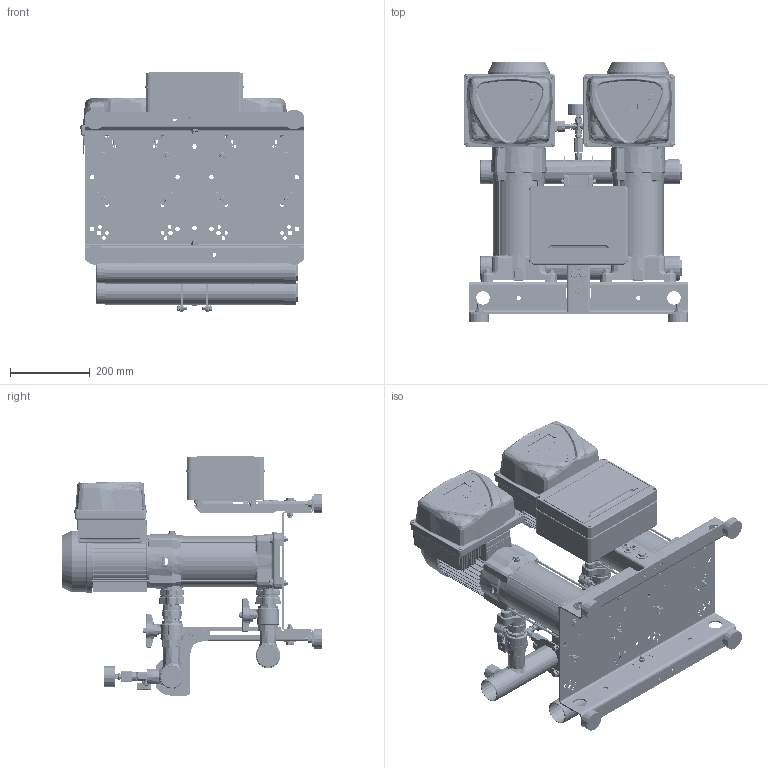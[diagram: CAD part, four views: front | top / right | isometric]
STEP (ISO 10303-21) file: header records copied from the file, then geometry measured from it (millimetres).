
FILE_DESCRIPTION((''),'2;1');
FILE_NAME('2GPE_CVM_B23_ESPT_REV4_ASM','2024-12-03T13:03:29',('Utente'),('"Ebara Pumps Europe S.p.A"'),'CREO PARAMETRIC BY PTC INC, 2022124','CREO PARAMETRIC BY PTC INC, 2022124','');
FILE_SCHEMA(('AUTOMOTIVE_DESIGN { 1 0 10303 214 1 1 1 1 }'));
Products named in the file (45): 62508_275562936; CALOTTA_F_A304_DN50_369800820; VAL_INT_MF_OTN_CIM301-14_DN32; VAL_INT_M-F_OTN_CIM301_DN32_ASM; EP_CVM_B-23_R; EP_CVM_B-23_R_ASM; ADATTATORE_E-SPD_MEC80-90-100; E-SPD_ADATTATORE_MEC80-90-100_ASM; BACK_E-SPD_PLUS_2200-4000; COVER_E-SPD_PLUS_2200-4000; COM_E-SPDT_MEC80-90-100_VERT_ASM; VAL-NR-MF-OTN-CIM32-DN32; VALV_NR_MF_CIM32_DN32_ASM; RONDEL-P_FE_ZN_UNI6592_M10; DADO_AUTOAGG_M10_ESAG; VITI_TE_ISO4017_M10_L40; 62513_275562944; VAL_INT_MF_OTN_CIM012_DN8; NIPPLO_OTG_8_380000861; CROCE_OTG_DN8_380000881; TRASD_16BAR_460500024; MAN_POS_D50_10BAR_361600003; BASE_2GP_I300-B300_DNRV; MONTANTE_H300_271472898; PIEDINO_CIL_369650010; DADI_NORM_ISO4032_FE_ZN_M10; RONDEL-P_ZN_UNI6593_M10X30X2-5; VITI_TE_ISO4017_M10_L45; TRAVERSO_MONT_L200_271472882; RONDEL-P_FE_ZN_UNI6593_M6X18X2; RONDEL-P_FE_ZN_UNI6592_M6; VITI_TE_ISO4017_M6_L20; DADI_NORM_ISO4032_FE_ZN_M6; DNRV_2P_I300-B300_H300-Q250X198_ASM; QUADRO_PROT_2P_T_ELENTEK; PG_PVC_D10-5_380000891; TAPPO-SALVAFIL_D31; 271473006; 271472998; 72578_271473004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
Assembly tree (134 placements, depth 3):
  2GPE_CVM_B23_ESPT_REV4_ASM
    62508_275562936
    CALOTTA_F_A304_DN50_369800820  x2
    VAL_INT_M-F_OTN_CIM301_DN32_ASM  x4
      VAL_INT_MF_OTN_CIM301-14_DN32
    EP_CVM_B-23_R_ASM  x2
      EP_CVM_B-23_R
    E-SPD_ADATTATORE_MEC80-90-100_ASM  x2
      ADATTATORE_E-SPD_MEC80-90-100
    COM_E-SPDT_MEC80-90-100_VERT_ASM  x2
      BACK_E-SPD_PLUS_2200-4000
      COVER_E-SPD_PLUS_2200-4000
    VALV_NR_MF_CIM32_DN32_ASM  x2
      VAL-NR-MF-OTN-CIM32-DN32
    RONDEL-P_FE_ZN_UNI6592_M10  x8
    DADO_AUTOAGG_M10_ESAG  x9
    VITI_TE_ISO4017_M10_L40  x8
    62513_275562944
    VAL_INT_MF_OTN_CIM012_DN8
    NIPPLO_OTG_8_380000861
    CROCE_OTG_DN8_380000881
    TRASD_16BAR_460500024  x2
    MAN_POS_D50_10BAR_361600003
    DNRV_2P_I300-B300_H300-Q250X198_ASM
      BASE_2GP_I300-B300_DNRV
      MONTANTE_H300_271472898
      PIEDINO_CIL_369650010  x4
      RONDEL-P_FE_ZN_UNI6592_M10  x4
      DADI_NORM_ISO4032_FE_ZN_M10  x4
      RONDEL-P_ZN_UNI6593_M10X30X2-5
      VITI_TE_ISO4017_M10_L45
      TRAVERSO_MONT_L200_271472882  x2
      RONDEL-P_FE_ZN_UNI6593_M6X18X2  x8
      RONDEL-P_FE_ZN_UNI6592_M6  x4
      VITI_TE_ISO4017_M6_L20  x4
      DADI_NORM_ISO4032_FE_ZN_M6  x4
      DADO_AUTOAGG_M10_ESAG
    QUADRO_PROT_2P_T_ELENTEK
    PG_PVC_D10-5_380000891  x3
    TAPPO-SALVAFIL_D31  x2
    271473006
    271472998  x2
    72578_271473004  x2
    RONDEL-P_ZN_UNI6593_M10X30X2-5
    VITI_TE_ISO4017_M10_L45
    RONDEL-P_FE_ZN_UNI6592_M8  x12
    VITI_TE_ISO4017_M8_L18  x8
    DADI_NORM_ISO4032_FE_ZN_M8  x4
    DADO_AUTOAGG_M8_ESAG  x4
Bounding box: 562.5 x 652.1 x 601.25 mm (x, y, z)
Volume: 4342362.8 mm3; surface area: 4839919.9 mm2
Topology: 296 solids, 1277 shells, 32656 faces, 85179 edges, 52556 vertices
Faces by surface type: plane 15709, cylinder 8029, bspline 2537, sphere 2093, cone 1521, extrusion 1426, torus 1341
Entity records: 735357 total; most frequent: CARTESIAN_POINT 286828, ORIENTED_EDGE 74540, DIRECTION 72146, EDGE_CURVE 38604, VERTEX_POINT 24229, AXIS2_PLACEMENT_3D 24157, VECTOR 23700, LINE 23070
